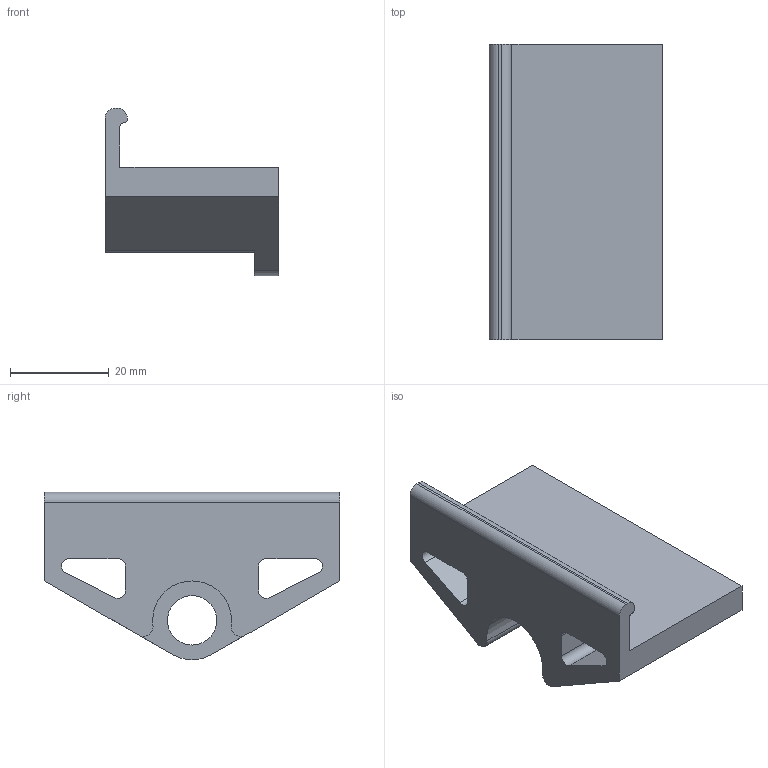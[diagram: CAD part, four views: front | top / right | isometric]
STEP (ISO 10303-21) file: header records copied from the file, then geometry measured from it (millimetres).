
FILE_DESCRIPTION(/* description */ ('STEP AP242 Edition 2','CAx-IF Rec.Pracs.---Representation and Presentation of Product Manufacturing Information (PMI)---4.0---2014-10-13','CAx-IF Rec.Pracs.---3D Tessellated Geometry---0.4---2014-09-14','2;1','CAx-IF Rec.Pracs.---User Defined Attributes---1.5---2016-08-15'),/* implementation_level */ '2;1');
FILE_NAME(/* name */ 'Assembly 1 - Phone Holder Male',/* time_stamp */ '2026-06-23T19:13:03Z',/* author */ (''),/* organization */ (''),/* preprocessor_version */ 'ST-DEVELOPER v20',/* originating_system */ 'ONSHAPE BY PTC INC, 1.216',/* authorisation */ ' ');
FILE_SCHEMA (('AP242_MANAGED_MODEL_BASED_3D_ENGINEERING_MIM_LF { 1 0 10303 442 3 1 4 }'));
Length unit declared in the file: metre
Products named in the file (1): Phone Holder Male
Bounding box: 35.25 x 60 x 34 mm (x, y, z)
Volume: 21213.7 mm3; surface area: 10828.3 mm2
Topology: 1 solids, 1 shells, 35 faces, 100 edges, 67 vertices
Faces by surface type: plane 19, cylinder 16
Full cylindrical faces by diameter (mm): 10 x1
Entity records: 1174 total; most frequent: DIRECTION 202, CARTESIAN_POINT 200, ORIENTED_EDGE 196, EDGE_CURVE 98, AXIS2_PLACEMENT_3D 68, VERTEX_POINT 66, LINE 66, VECTOR 66
